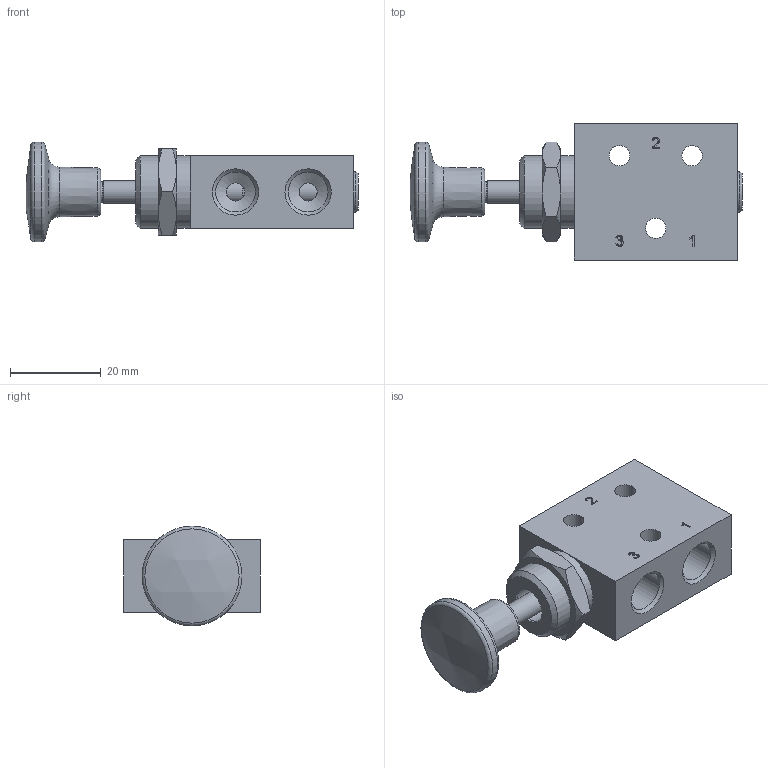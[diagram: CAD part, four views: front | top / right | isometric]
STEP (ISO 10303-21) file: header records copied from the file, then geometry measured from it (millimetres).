
FILE_DESCRIPTION(/* description */ ('Unknown'),/* implementation_level */ '2;1');
FILE_NAME(/* name */ 'BH 320 401',/* time_stamp */ '2018-04-26T11:21:10+02:00',/* author */ ('Unknown'),/* organization */ ('Unknown'),/* preprocessor_version */ 'ST-DEVELOPER v16.7',/* originating_system */ 'DEX',/* authorisation */ $);
FILE_SCHEMA (('AUTOMOTIVE_DESIGN {1 0 10303 214 3 1 1}'));
Length unit declared in the file: millimetre
Products named in the file (2): BH 320 401
Assembly tree (1 placements, depth 2):
  BH 320 401
    BH 320 401
Bounding box: 73.16 x 30 x 22 mm (x, y, z)
Volume: 18880.2 mm3; surface area: 10642.9 mm2
Topology: 5 solids, 5 shells, 140 faces, 332 edges, 211 vertices
Faces by surface type: plane 56, cone 31, cylinder 29, bspline 16, torus 7, sphere 1
Full cylindrical faces by diameter (mm): 1 x1, 3 x1, 4 x3, 4.134 x2, 4.5 x4, 5 x3, 6 x1, 8 x1, 8.06 x1, 8.8 x6, 9 x1, 14.917 x1, 16 x1, 22 x1
Entity records: 5273 total; most frequent: CARTESIAN_POINT 1520, DIRECTION 534, ORIENTED_EDGE 510, EDGE_CURVE 255, EDGE_LOOP 222, FACE_BOUND 222, AXIS2_PLACEMENT_3D 212, VERTEX_POINT 189
